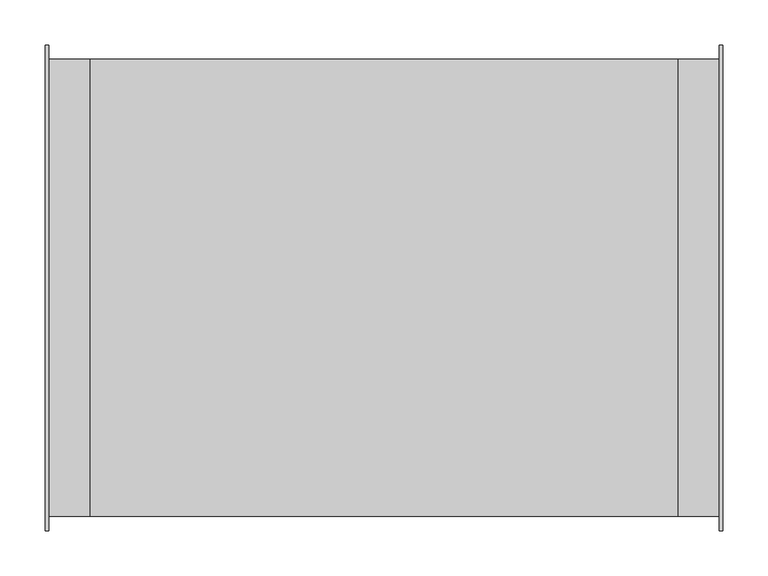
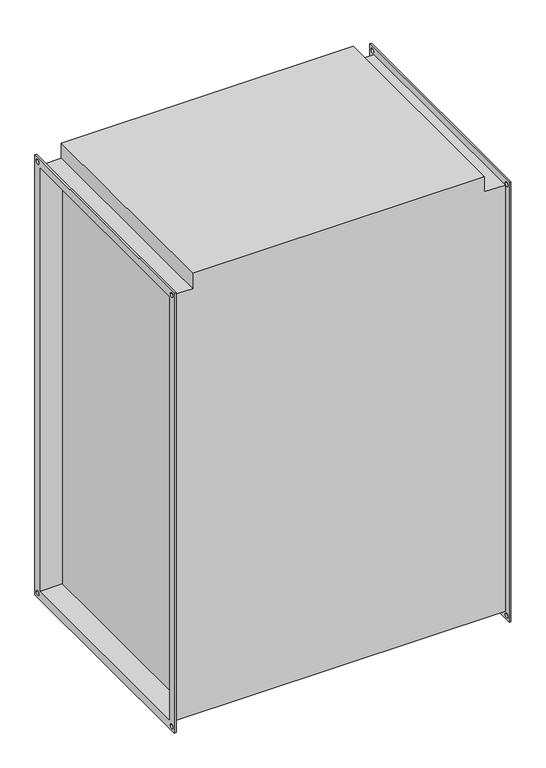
"""IFC4 building model written with IfcOpenShell, lengths in millimetres: proxy geometry, СВ_ВоздухонагревательЭлектрический_КанальныйПрямоугольный_200-1000_SPH-E : SPH-E-1000x500/60."""

from ifc_helpers import new_model, si_unit, frame, origin, place, context, project, spatial, polyline, circle_curve, source, transform, mapped, element, save
from ifc_brep_helpers import plane_surface, revolved_surface, advanced_brep


def mechanical_equipment_4ad8d908(model_context):
    return source(origin(), model_context, "Body", "AdvancedBrep", [
        advanced_brep(
        [(-326.5, -254.0, 504.0), (-372.5, -254.0, 504.0), (-372.5, -254.0, -504.0), (372.5, -254.0, -504.0), (372.5, -254.0, 504.0), (326.5, -254.0, 504.0), (326.5, -254.0, 540.0), (-326.5, -254.0, 540.0), (-372.5, 254.0, -504.0), (372.5, 254.0, -504.0), (-372.5, 254.0, 504.0), (-326.5, 254.0, 504.0), (-326.5, 254.0, 540.0), (326.5, 254.0, 540.0), (326.5, 254.0, 504.0), (372.5, 254.0, 504.0), (326.5, 250.0, -500.0), (326.5, 250.0, 500.0), (326.5, -250.0, 500.0), (326.5, -250.0, -500.0), (-326.5, -250.0, 500.0), (-326.5, 250.0, 500.0), (-326.5, 250.0, -500.0), (-326.5, -250.0, -500.0), (-376.5, -270.0, 520.0), (-376.5, 270.0, 520.0), (-376.5, 270.0, -520.0), (-376.5, -270.0, -520.0), (-376.5, -250.0, 500.0), (-376.5, -250.0, -500.0), (-376.5, 250.0, -500.0), (-376.5, 250.0, 500.0), (-376.5, 255.0, 510.0), (-376.5, 265.0, 510.0), (-376.5, -265.0, 510.0), (-376.5, -255.0, 510.0), (-376.5, -265.0, -510.0), (-376.5, -255.0, -510.0), (-376.5, 255.0, -510.0), (-376.5, 265.0, -510.0), (-372.5, -270.0, 520.0), (-372.5, -270.0, -520.0), (-372.5, 270.0, -520.0), (-372.5, 270.0, 520.0), (-372.5, 265.0, 510.0), (-372.5, 255.0, 510.0), (-372.5, -255.0, 510.0), (-372.5, -265.0, 510.0), (-372.5, -255.0, -510.0), (-372.5, -265.0, -510.0), (-372.5, 265.0, -510.0), (-372.5, 255.0, -510.0), (372.5, 270.0, 520.0), (372.5, 270.0, -520.0), (372.5, -270.0, -520.0), (372.5, -270.0, 520.0), (372.5, 255.0, 510.0), (372.5, 265.0, 510.0), (372.5, -265.0, 510.0), (372.5, -255.0, 510.0), (372.5, -265.0, -510.0), (372.5, -255.0, -510.0), (372.5, 255.0, -510.0), (372.5, 265.0, -510.0), (376.5, 270.0, 520.0), (376.5, -270.0, 520.0), (376.5, -270.0, -520.0), (376.5, 270.0, -520.0), (376.5, 250.0, 500.0), (376.5, 250.0, -500.0), (376.5, -250.0, -500.0), (376.5, -250.0, 500.0), (376.5, 265.0, 510.0), (376.5, 255.0, 510.0), (376.5, -255.0, 510.0), (376.5, -265.0, 510.0), (376.5, -255.0, -510.0), (376.5, -265.0, -510.0), (376.5, 265.0, -510.0), (376.5, 255.0, -510.0)],
        [
            (0, 1),
            (1, 2),
            (2, 3),
            (3, 4),
            (4, 5),
            (5, 6),
            (6, 7),
            (7, 0),
            (2, 8),
            (8, 9),
            (9, 3),
            (10, 11),
            (11, 12),
            (12, 13),
            (13, 14),
            (14, 15),
            (15, 9),
            (8, 10),
            (0, 11),
            (10, 1),
            (13, 6),
            (5, 14),
            (16, 17),
            (17, 18),
            (18, 19),
            (19, 16),
            (7, 12),
            (20, 21),
            (21, 22),
            (22, 23),
            (23, 20),
            (4, 15),
            (24, 25),
            (25, 26),
            (26, 27),
            (27, 24),
            (28, 29),
            (29, 30),
            (30, 31),
            (31, 28),
            (32, 33, circle_curve(frame((-376.5, 260.0, 510.0), z_axis=(1.0, 0.0, 0.0), x_axis=(0.0, 1.0, 0.0)), 5.0)),
            (33, 32, circle_curve(frame((-376.5, 260.0, 510.0), z_axis=(1.0, 0.0, 0.0), x_axis=(0.0, 1.0, 0.0)), 5.0)),
            (34, 35, circle_curve(frame((-376.5, -260.0, 510.0), z_axis=(1.0, 0.0, 0.0), x_axis=(0.0, 1.0, 0.0)), 5.0)),
            (35, 34, circle_curve(frame((-376.5, -260.0, 510.0), z_axis=(1.0, 0.0, 0.0), x_axis=(0.0, 1.0, 0.0)), 5.0)),
            (36, 37, circle_curve(frame((-376.5, -260.0, -510.0), z_axis=(1.0, 0.0, 0.0), x_axis=(0.0, 1.0, 0.0)), 5.0)),
            (37, 36, circle_curve(frame((-376.5, -260.0, -510.0), z_axis=(1.0, 0.0, 0.0), x_axis=(0.0, 1.0, 0.0)), 5.0)),
            (38, 39, circle_curve(frame((-376.5, 260.0, -510.0), z_axis=(1.0, 0.0, 0.0), x_axis=(0.0, 1.0, 0.0)), 5.0)),
            (39, 38, circle_curve(frame((-376.5, 260.0, -510.0), z_axis=(1.0, 0.0, 0.0), x_axis=(0.0, 1.0, 0.0)), 5.0)),
            (40, 41),
            (41, 42),
            (42, 43),
            (43, 40),
            (44, 45, circle_curve(frame((-372.5, 260.0, 510.0), z_axis=(-1.0, 0.0, 0.0), x_axis=(0.0, 1.0, 0.0)), 5.0)),
            (45, 44, circle_curve(frame((-372.5, 260.0, 510.0), z_axis=(-1.0, 0.0, 0.0), x_axis=(0.0, 1.0, 0.0)), 5.0)),
            (46, 47, circle_curve(frame((-372.5, -260.0, 510.0), z_axis=(-1.0, 0.0, 0.0), x_axis=(0.0, 1.0, 0.0)), 5.0)),
            (47, 46, circle_curve(frame((-372.5, -260.0, 510.0), z_axis=(-1.0, 0.0, 0.0), x_axis=(0.0, 1.0, 0.0)), 5.0)),
            (48, 49, circle_curve(frame((-372.5, -260.0, -510.0), z_axis=(-1.0, 0.0, 0.0), x_axis=(0.0, 1.0, 0.0)), 5.0)),
            (49, 48, circle_curve(frame((-372.5, -260.0, -510.0), z_axis=(-1.0, 0.0, 0.0), x_axis=(0.0, 1.0, 0.0)), 5.0)),
            (50, 51, circle_curve(frame((-372.5, 260.0, -510.0), z_axis=(-1.0, 0.0, 0.0), x_axis=(0.0, 1.0, 0.0)), 5.0)),
            (51, 50, circle_curve(frame((-372.5, 260.0, -510.0), z_axis=(-1.0, 0.0, 0.0), x_axis=(0.0, 1.0, 0.0)), 5.0)),
            (27, 41),
            (40, 24),
            (26, 42),
            (25, 43),
            (52, 53),
            (53, 54),
            (54, 55),
            (55, 52),
            (56, 57, circle_curve(frame((372.5, 260.0, 510.0), z_axis=(1.0, 0.0, 0.0), x_axis=(0.0, 1.0, 0.0)), 5.0)),
            (57, 56, circle_curve(frame((372.5, 260.0, 510.0), z_axis=(1.0, 0.0, 0.0), x_axis=(0.0, 1.0, 0.0)), 5.0)),
            (58, 59, circle_curve(frame((372.5, -260.0, 510.0), z_axis=(1.0, 0.0, 0.0), x_axis=(0.0, 1.0, 0.0)), 5.0)),
            (59, 58, circle_curve(frame((372.5, -260.0, 510.0), z_axis=(1.0, 0.0, 0.0), x_axis=(0.0, 1.0, 0.0)), 5.0)),
            (60, 61, circle_curve(frame((372.5, -260.0, -510.0), z_axis=(1.0, 0.0, 0.0), x_axis=(0.0, 1.0, 0.0)), 5.0)),
            (61, 60, circle_curve(frame((372.5, -260.0, -510.0), z_axis=(1.0, 0.0, 0.0), x_axis=(0.0, 1.0, 0.0)), 5.0)),
            (62, 63, circle_curve(frame((372.5, 260.0, -510.0), z_axis=(1.0, 0.0, 0.0), x_axis=(0.0, 1.0, 0.0)), 5.0)),
            (63, 62, circle_curve(frame((372.5, 260.0, -510.0), z_axis=(1.0, 0.0, 0.0), x_axis=(0.0, 1.0, 0.0)), 5.0)),
            (64, 65),
            (65, 66),
            (66, 67),
            (67, 64),
            (68, 69),
            (69, 70),
            (70, 71),
            (71, 68),
            (72, 73, circle_curve(frame((376.5, 260.0, 510.0), z_axis=(-1.0, 0.0, 0.0), x_axis=(0.0, 1.0, 0.0)), 5.0)),
            (73, 72, circle_curve(frame((376.5, 260.0, 510.0), z_axis=(-1.0, 0.0, 0.0), x_axis=(0.0, 1.0, 0.0)), 5.0)),
            (74, 75, circle_curve(frame((376.5, -260.0, 510.0), z_axis=(-1.0, 0.0, 0.0), x_axis=(0.0, 1.0, 0.0)), 5.0)),
            (75, 74, circle_curve(frame((376.5, -260.0, 510.0), z_axis=(-1.0, 0.0, 0.0), x_axis=(0.0, 1.0, 0.0)), 5.0)),
            (76, 77, circle_curve(frame((376.5, -260.0, -510.0), z_axis=(-1.0, 0.0, 0.0), x_axis=(0.0, 1.0, 0.0)), 5.0)),
            (77, 76, circle_curve(frame((376.5, -260.0, -510.0), z_axis=(-1.0, 0.0, 0.0), x_axis=(0.0, 1.0, 0.0)), 5.0)),
            (78, 79, circle_curve(frame((376.5, 260.0, -510.0), z_axis=(-1.0, 0.0, 0.0), x_axis=(0.0, 1.0, 0.0)), 5.0)),
            (79, 78, circle_curve(frame((376.5, 260.0, -510.0), z_axis=(-1.0, 0.0, 0.0), x_axis=(0.0, 1.0, 0.0)), 5.0)),
            (55, 65),
            (64, 52),
            (54, 66),
            (53, 67),
            (31, 21),
            (20, 28),
            (30, 22),
            (29, 23),
            (68, 17),
            (16, 69),
            (19, 70),
            (18, 71),
            (32, 45),
            (44, 33),
            (56, 73),
            (72, 57),
            (34, 47),
            (46, 35),
            (58, 75),
            (74, 59),
            (36, 49),
            (48, 37),
            (60, 77),
            (76, 61),
            (38, 51),
            (50, 39),
            (62, 79),
            (78, 63),
        ],
        [
            plane_surface(frame((-326.5, -254.0, 504.0), z_axis=(0.0, -1.0, 0.0), x_axis=(-1.0, 0.0, 0.0))),
            plane_surface(frame((-326.5, -254.0, -504.0), z_axis=(0.0, 0.0, -1.0), x_axis=(-1.0, 0.0, 0.0))),
            plane_surface(frame((-326.5, 254.0, -504.0), z_axis=(0.0, 1.0, 0.0), x_axis=(-1.0, 0.0, 0.0))),
            plane_surface(frame((-326.5, 254.0, 504.0), z_axis=(0.0, 0.0, 1.0), x_axis=(-1.0, 0.0, 0.0))),
            plane_surface(frame((326.5, -254.0, 540.0), z_axis=(1.0, 0.0, 0.0), x_axis=(0.0, 0.0, -1.0))),
            plane_surface(frame((-326.5, -254.0, 540.0), z_axis=(-1.0, 0.0, 0.0), x_axis=(0.0, 0.0, 1.0))),
            plane_surface(frame((326.5, 254.0, 540.0), z_axis=(0.0, 0.0, 1.0), x_axis=(-1.0, 0.0, 0.0))),
            plane_surface(frame((372.5, 254.0, 504.0), z_axis=(0.0, 0.0, 1.0), x_axis=(-1.0, 0.0, 0.0))),
            plane_surface(frame((-376.5, -270.0, 520.0), z_axis=(-1.0, 0.0, 0.0), x_axis=(0.0, 0.0, 1.0))),
            plane_surface(frame((-372.5, -270.0, 520.0), z_axis=(1.0, 0.0, 0.0), x_axis=(0.0, 0.0, -1.0))),
            plane_surface(frame((-372.5, -270.0, 520.0), z_axis=(0.0, -1.0, 0.0), x_axis=(-1.0, 0.0, 0.0))),
            plane_surface(frame((-372.5, -270.0, -520.0), z_axis=(0.0, 0.0, -1.0), x_axis=(-1.0, 0.0, 0.0))),
            plane_surface(frame((-372.5, 270.0, -520.0), z_axis=(0.0, 1.0, 0.0), x_axis=(-1.0, 0.0, 0.0))),
            plane_surface(frame((-372.5, 270.0, 520.0), z_axis=(0.0, 0.0, 1.0), x_axis=(-1.0, 0.0, 0.0))),
            plane_surface(frame((372.5, 250.0, -500.0), z_axis=(-1.0, 0.0, 0.0), x_axis=(0.0, 0.0, 1.0))),
            plane_surface(frame((376.5, 250.0, -500.0), z_axis=(1.0, 0.0, 0.0), x_axis=(0.0, 0.0, -1.0))),
            plane_surface(frame((376.5, 270.0, 520.0), z_axis=(0.0, 0.0, 1.0), x_axis=(-1.0, 0.0, 0.0))),
            plane_surface(frame((376.5, -270.0, 520.0), z_axis=(0.0, -1.0, 0.0), x_axis=(-1.0, 0.0, 0.0))),
            plane_surface(frame((376.5, -270.0, -520.0), z_axis=(0.0, 0.0, -1.0), x_axis=(-1.0, 0.0, 0.0))),
            plane_surface(frame((376.5, 270.0, -520.0), z_axis=(0.0, 1.0, 0.0), x_axis=(-1.0, 0.0, 0.0))),
            plane_surface(frame((-372.5, -250.0, 500.0), z_axis=(0.0, 0.0, -1.0), x_axis=(-1.0, 0.0, 0.0))),
            plane_surface(frame((-372.5, 250.0, 500.0), z_axis=(0.0, -1.0, 0.0), x_axis=(-1.0, 0.0, 0.0))),
            plane_surface(frame((-372.5, 250.0, -500.0), z_axis=(0.0, 0.0, 1.0), x_axis=(-1.0, 0.0, 0.0))),
            plane_surface(frame((-372.5, -250.0, -500.0), z_axis=(0.0, 1.0, 0.0), x_axis=(-1.0, 0.0, 0.0))),
            plane_surface(frame((376.5, 250.0, 500.0), z_axis=(0.0, -1.0, 0.0), x_axis=(-1.0, 0.0, 0.0))),
            plane_surface(frame((376.5, 250.0, -500.0), z_axis=(0.0, 0.0, 1.0), x_axis=(-1.0, 0.0, 0.0))),
            plane_surface(frame((376.5, -250.0, -500.0), z_axis=(0.0, 1.0, 0.0), x_axis=(-1.0, 0.0, 0.0))),
            plane_surface(frame((376.5, -250.0, 500.0), z_axis=(0.0, 0.0, -1.0), x_axis=(-1.0, 0.0, 0.0))),
            revolved_surface(polyline([(-372.5, 265.0, 510.0), (-376.5, 265.0, 510.0)]), (-376.5, 260.0, 510.0), (1.0, 0.0, 0.0)),
            revolved_surface(polyline([(376.5, 265.0, 510.0), (372.5, 265.0, 510.0)]), (-376.5, 260.0, 510.0), (1.0, 0.0, 0.0)),
            revolved_surface(polyline([(-372.5, -255.0, 510.0), (-376.5, -255.0, 510.0)]), (0.0, -260.0, 510.0), (1.0, 0.0, 0.0)),
            revolved_surface(polyline([(376.5, -255.0, 510.0), (372.5, -255.0, 510.0)]), (0.0, -260.0, 510.0), (1.0, 0.0, 0.0)),
            revolved_surface(polyline([(-372.5, -255.0, -510.0), (-376.5, -255.0, -510.0)]), (0.0, -260.0, -510.0), (1.0, 0.0, 0.0)),
            revolved_surface(polyline([(376.5, -255.0, -510.0), (372.5, -255.0, -510.0)]), (0.0, -260.0, -510.0), (1.0, 0.0, 0.0)),
            revolved_surface(polyline([(-372.5, 265.0, -510.0), (-376.5, 265.0, -510.0)]), (0.0, 260.0, -510.0), (1.0, 0.0, 0.0)),
            revolved_surface(polyline([(376.5, 265.0, -510.0), (372.5, 265.0, -510.0)]), (0.0, 260.0, -510.0), (1.0, 0.0, 0.0)),
        ],
        [
            (0, [[1, 2, 3, 4, 5, 6, 7, 8]]),
            (1, [[-3, 9, 10, 11]]),
            (2, [[12, 13, 14, 15, 16, 17, -10, 18]]),
            (3, [[-1, 19, -12, 20]]),
            (4, [[21, -6, 22, -15]]),
            (4, [[23, 24, 25, 26]]),
            (5, [[27, -13, -19, -8]]),
            (5, [[28, 29, 30, 31]]),
            (6, [[-21, -14, -27, -7]]),
            (7, [[-5, 32, -16, -22]]),
            (8, [[33, 34, 35, 36], [37, 38, 39, 40], [41, 42], [43, 44], [45, 46], [47, 48]]),
            (9, [[49, 50, 51, 52], [-2, -20, -18, -9], [53, 54], [55, 56], [57, 58], [59, 60]]),
            (10, [[-36, 61, -49, 62]]),
            (11, [[-35, 63, -50, -61]]),
            (12, [[-34, 64, -51, -63]]),
            (13, [[-33, -62, -52, -64]]),
            (14, [[65, 66, 67, 68], [-4, -11, -17, -32], [69, 70], [71, 72], [73, 74], [75, 76]]),
            (15, [[77, 78, 79, 80], [81, 82, 83, 84], [85, 86], [87, 88], [89, 90], [91, 92]]),
            (16, [[-68, 93, -77, 94]]),
            (17, [[-67, 95, -78, -93]]),
            (18, [[-66, 96, -79, -95]]),
            (19, [[-65, -94, -80, -96]]),
            (20, [[-40, 97, -28, 98]]),
            (21, [[-39, 99, -29, -97]]),
            (22, [[-38, 100, -30, -99]]),
            (23, [[-37, -98, -31, -100]]),
            (24, [[-81, 101, -23, 102]]),
            (25, [[-82, -102, -26, 103]]),
            (26, [[-83, -103, -25, 104]]),
            (27, [[-101, -84, -104, -24]]),
            (28, [[105, -53, 106, -41]]),
            (29, [[107, -85, 108, -69]]),
            (28, [[-105, -42, -106, -54]]),
            (29, [[-107, -70, -108, -86]]),
            (30, [[109, -55, 110, -43]]),
            (31, [[111, -87, 112, -71]]),
            (30, [[-109, -44, -110, -56]]),
            (31, [[-111, -72, -112, -88]]),
            (32, [[113, -57, 114, -45]]),
            (33, [[115, -89, 116, -73]]),
            (32, [[-113, -46, -114, -58]]),
            (33, [[-115, -74, -116, -90]]),
            (34, [[117, -59, 118, -47]]),
            (35, [[119, -91, 120, -75]]),
            (34, [[-117, -48, -118, -60]]),
            (35, [[-119, -76, -120, -92]]),
        ],
    ),
    ])


if __name__ == "__main__":
    model = new_model("IFC4")
    model_context = context("Model", 3, world=origin())
    ifc_project = project(units=[si_unit("LENGTHUNIT", "METRE", prefix="MILLI")], contexts=[model_context])
    site = spatial("IfcSite", under=ifc_project)
    building = spatial("IfcBuilding", under=site)
    placement = place(None, origin())
    mechanical_equipment_shape = mechanical_equipment_4ad8d908(model_context)
    element("IfcBuildingElementProxy", 1, Name="СВ_ВоздухонагревательЭлектрический_КанальныйПрямоугольный_200-1000_SPH-E : SPH-E-1000x500/60", ObjectType="СВ_ВоздухонагревательЭлектрический_КанальныйПрямоугольный_200-1000_SPH-E : SPH-E-1000x500/60", at=placement, inside=building, context=model_context, shape_type="MappedRepresentation", body=[
        mapped(mechanical_equipment_shape, transform((0.0, 0.0, 0.0), x_axis=(1.0, 0.0, 0.0), y_axis=(0.0, 1.0, 0.0), z_axis=(0.0, 0.0, 1.0))),
    ])
    save(model, "model.ifc")
